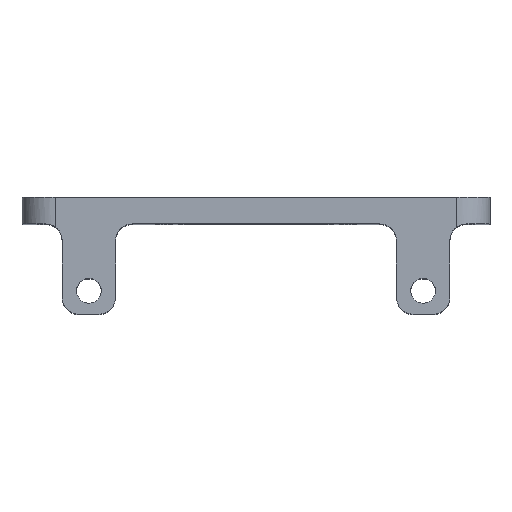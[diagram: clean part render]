
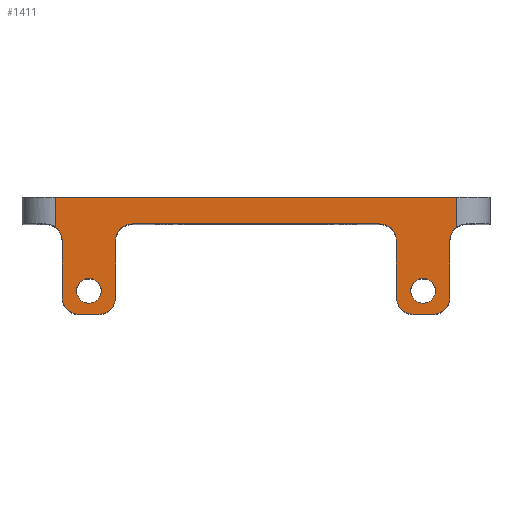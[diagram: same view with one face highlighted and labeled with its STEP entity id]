
A CAD part, top view. The second image highlights one B-rep face of the part: STEP entity #1411.
In plain terms, the highlighted planar face has unit normal (0, 0, 1).
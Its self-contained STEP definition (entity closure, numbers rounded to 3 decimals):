
#30=FACE_BOUND('',#190,.T.);
#31=FACE_BOUND('',#191,.T.);
#55=PLANE('',#1535);
#103=FACE_OUTER_BOUND('',#189,.T.);
#189=EDGE_LOOP('',(#1075,#1076,#1077,#1078,#1079,#1080,#1081,#1082,#1083,
#1084,#1085,#1086,#1087,#1088,#1089,#1090,#1091,#1092));
#190=EDGE_LOOP('',(#1093));
#191=EDGE_LOOP('',(#1094));
#297=LINE('',#2177,#432);
#316=LINE('',#2241,#451);
#319=LINE('',#2246,#454);
#320=LINE('',#2250,#455);
#321=LINE('',#2254,#456);
#322=LINE('',#2258,#457);
#323=LINE('',#2262,#458);
#324=LINE('',#2264,#459);
#325=LINE('',#2266,#460);
#326=LINE('',#2270,#461);
#432=VECTOR('',#1747,10.);
#451=VECTOR('',#1796,10.);
#454=VECTOR('',#1801,10.);
#455=VECTOR('',#1804,10.);
#456=VECTOR('',#1807,10.);
#457=VECTOR('',#1810,10.);
#458=VECTOR('',#1813,10.);
#459=VECTOR('',#1814,10.);
#460=VECTOR('',#1815,10.);
#461=VECTOR('',#1818,10.);
#546=CIRCLE('',#1514,2.5);
#563=CIRCLE('',#1533,2.5);
#564=CIRCLE('',#1536,2.5);
#565=CIRCLE('',#1537,2.5);
#566=CIRCLE('',#1538,2.5);
#567=CIRCLE('',#1539,2.5);
#568=CIRCLE('',#1540,2.5);
#569=CIRCLE('',#1541,2.5);
#570=CIRCLE('',#1542,1.85);
#571=CIRCLE('',#1543,1.85);
#633=VERTEX_POINT('',#2147);
#634=VERTEX_POINT('',#2149);
#646=VERTEX_POINT('',#2175);
#674=VERTEX_POINT('',#2234);
#675=VERTEX_POINT('',#2236);
#676=VERTEX_POINT('',#2240);
#678=VERTEX_POINT('',#2247);
#679=VERTEX_POINT('',#2249);
#680=VERTEX_POINT('',#2251);
#681=VERTEX_POINT('',#2253);
#682=VERTEX_POINT('',#2255);
#683=VERTEX_POINT('',#2257);
#684=VERTEX_POINT('',#2259);
#685=VERTEX_POINT('',#2261);
#686=VERTEX_POINT('',#2263);
#687=VERTEX_POINT('',#2265);
#688=VERTEX_POINT('',#2267);
#689=VERTEX_POINT('',#2269);
#690=VERTEX_POINT('',#2272);
#691=VERTEX_POINT('',#2274);
#785=EDGE_CURVE('',#633,#634,#546,.T.);
#799=EDGE_CURVE('',#646,#633,#297,.T.);
#829=EDGE_CURVE('',#674,#675,#563,.T.);
#831=EDGE_CURVE('',#675,#676,#316,.T.);
#834=EDGE_CURVE('',#634,#674,#319,.T.);
#835=EDGE_CURVE('',#678,#646,#564,.T.);
#836=EDGE_CURVE('',#678,#679,#320,.T.);
#837=EDGE_CURVE('',#680,#679,#565,.T.);
#838=EDGE_CURVE('',#680,#681,#321,.T.);
#839=EDGE_CURVE('',#682,#681,#566,.T.);
#840=EDGE_CURVE('',#682,#683,#322,.T.);
#841=EDGE_CURVE('',#683,#684,#567,.F.);
#842=EDGE_CURVE('',#685,#684,#323,.T.);
#843=EDGE_CURVE('',#686,#685,#324,.T.);
#844=EDGE_CURVE('',#687,#686,#325,.T.);
#845=EDGE_CURVE('',#688,#687,#568,.T.);
#846=EDGE_CURVE('',#689,#688,#326,.T.);
#847=EDGE_CURVE('',#676,#689,#569,.T.);
#848=EDGE_CURVE('',#690,#690,#570,.T.);
#849=EDGE_CURVE('',#691,#691,#571,.T.);
#1075=ORIENTED_EDGE('',*,*,#829,.F.);
#1076=ORIENTED_EDGE('',*,*,#834,.F.);
#1077=ORIENTED_EDGE('',*,*,#785,.F.);
#1078=ORIENTED_EDGE('',*,*,#799,.F.);
#1079=ORIENTED_EDGE('',*,*,#835,.F.);
#1080=ORIENTED_EDGE('',*,*,#836,.T.);
#1081=ORIENTED_EDGE('',*,*,#837,.F.);
#1082=ORIENTED_EDGE('',*,*,#838,.T.);
#1083=ORIENTED_EDGE('',*,*,#839,.F.);
#1084=ORIENTED_EDGE('',*,*,#840,.T.);
#1085=ORIENTED_EDGE('',*,*,#841,.T.);
#1086=ORIENTED_EDGE('',*,*,#842,.F.);
#1087=ORIENTED_EDGE('',*,*,#843,.F.);
#1088=ORIENTED_EDGE('',*,*,#844,.F.);
#1089=ORIENTED_EDGE('',*,*,#845,.F.);
#1090=ORIENTED_EDGE('',*,*,#846,.F.);
#1091=ORIENTED_EDGE('',*,*,#847,.F.);
#1092=ORIENTED_EDGE('',*,*,#831,.F.);
#1093=ORIENTED_EDGE('',*,*,#848,.T.);
#1094=ORIENTED_EDGE('',*,*,#849,.T.);
#1411=ADVANCED_FACE('',(#103,#30,#31),#55,.T.);
#1514=AXIS2_PLACEMENT_3D('',#2150,#1726,#1727);
#1533=AXIS2_PLACEMENT_3D('',#2237,#1791,#1792);
#1535=AXIS2_PLACEMENT_3D('',#2245,#1799,#1800);
#1536=AXIS2_PLACEMENT_3D('',#2248,#1802,#1803);
#1537=AXIS2_PLACEMENT_3D('',#2252,#1805,#1806);
#1538=AXIS2_PLACEMENT_3D('',#2256,#1808,#1809);
#1539=AXIS2_PLACEMENT_3D('',#2260,#1811,#1812);
#1540=AXIS2_PLACEMENT_3D('',#2268,#1816,#1817);
#1541=AXIS2_PLACEMENT_3D('',#2271,#1819,#1820);
#1542=AXIS2_PLACEMENT_3D('',#2273,#1821,#1822);
#1543=AXIS2_PLACEMENT_3D('',#2275,#1823,#1824);
#1726=DIRECTION('center_axis',(0.,0.,1.));
#1727=DIRECTION('ref_axis',(-0.707,0.707,0.));
#1747=DIRECTION('',(-1.,0.,0.));
#1791=DIRECTION('center_axis',(0.,0.,-1.));
#1792=DIRECTION('ref_axis',(0.707,-0.707,0.));
#1796=DIRECTION('',(-1.,0.,0.));
#1799=DIRECTION('center_axis',(0.,0.,1.));
#1800=DIRECTION('ref_axis',(-1.,0.,0.));
#1801=DIRECTION('',(0.,-1.,0.));
#1802=DIRECTION('center_axis',(0.,0.,1.));
#1803=DIRECTION('ref_axis',(0.707,0.707,0.));
#1804=DIRECTION('',(0.,-1.,0.));
#1805=DIRECTION('center_axis',(0.,0.,-1.));
#1806=DIRECTION('ref_axis',(-0.707,-0.707,0.));
#1807=DIRECTION('',(1.,0.,0.));
#1808=DIRECTION('center_axis',(0.,0.,-1.));
#1809=DIRECTION('ref_axis',(0.707,-0.707,0.));
#1810=DIRECTION('',(0.,1.,0.));
#1811=DIRECTION('center_axis',(0.,0.,1.));
#1812=DIRECTION('ref_axis',(-0.707,0.707,0.));
#1813=DIRECTION('',(0.,-1.,0.));
#1814=DIRECTION('',(1.,0.,0.));
#1815=DIRECTION('',(0.,1.,0.));
#1816=DIRECTION('center_axis',(0.,0.,1.));
#1817=DIRECTION('ref_axis',(0.707,0.707,0.));
#1818=DIRECTION('',(0.,1.,0.));
#1819=DIRECTION('center_axis',(0.,0.,-1.));
#1820=DIRECTION('ref_axis',(-0.707,-0.707,0.));
#1821=DIRECTION('center_axis',(0.,0.,-1.));
#1822=DIRECTION('ref_axis',(-1.,0.,0.));
#1823=DIRECTION('center_axis',(0.,0.,-1.));
#1824=DIRECTION('ref_axis',(-1.,0.,0.));
#2147=CARTESIAN_POINT('',(-18.5,-4.,28.5));
#2149=CARTESIAN_POINT('',(-21.,-6.5,28.5));
#2150=CARTESIAN_POINT('Origin',(-18.5,-6.5,28.5));
#2175=CARTESIAN_POINT('',(18.5,-4.,28.5));
#2177=CARTESIAN_POINT('',(-35.,-4.,28.5));
#2234=CARTESIAN_POINT('',(-21.,-15.,28.5));
#2236=CARTESIAN_POINT('',(-23.5,-17.5,28.5));
#2237=CARTESIAN_POINT('Origin',(-23.5,-15.,28.5));
#2240=CARTESIAN_POINT('',(-26.5,-17.5,28.5));
#2241=CARTESIAN_POINT('',(-21.,-17.5,28.5));
#2245=CARTESIAN_POINT('Origin',(35.,0.,28.5));
#2246=CARTESIAN_POINT('',(-21.,-4.,28.5));
#2247=CARTESIAN_POINT('',(21.,-6.5,28.5));
#2248=CARTESIAN_POINT('Origin',(18.5,-6.5,28.5));
#2249=CARTESIAN_POINT('',(21.,-15.,28.5));
#2250=CARTESIAN_POINT('',(21.,-4.,28.5));
#2251=CARTESIAN_POINT('',(23.5,-17.5,28.5));
#2252=CARTESIAN_POINT('Origin',(23.5,-15.,28.5));
#2253=CARTESIAN_POINT('',(26.5,-17.5,28.5));
#2254=CARTESIAN_POINT('',(21.,-17.5,28.5));
#2255=CARTESIAN_POINT('',(29.,-15.,28.5));
#2256=CARTESIAN_POINT('Origin',(26.5,-15.,28.5));
#2257=CARTESIAN_POINT('',(29.,-6.5,28.5));
#2258=CARTESIAN_POINT('',(29.,-17.5,28.5));
#2259=CARTESIAN_POINT('',(30.,-4.5,28.5));
#2260=CARTESIAN_POINT('Origin',(31.5,-6.5,28.5));
#2261=CARTESIAN_POINT('',(30.,0.,28.5));
#2262=CARTESIAN_POINT('',(30.,0.,28.5));
#2263=CARTESIAN_POINT('',(-30.,0.,28.5));
#2264=CARTESIAN_POINT('',(-35.,0.,28.5));
#2265=CARTESIAN_POINT('',(-30.,-4.5,28.5));
#2266=CARTESIAN_POINT('',(-30.,0.,28.5));
#2267=CARTESIAN_POINT('',(-29.,-6.5,28.5));
#2268=CARTESIAN_POINT('Origin',(-31.5,-6.5,28.5));
#2269=CARTESIAN_POINT('',(-29.,-15.,28.5));
#2270=CARTESIAN_POINT('',(-29.,-17.5,28.5));
#2271=CARTESIAN_POINT('Origin',(-26.5,-15.,28.5));
#2272=CARTESIAN_POINT('',(26.85,-14.,28.5));
#2273=CARTESIAN_POINT('Origin',(25.,-14.,28.5));
#2274=CARTESIAN_POINT('',(-23.15,-14.,28.5));
#2275=CARTESIAN_POINT('Origin',(-25.,-14.,28.5));
